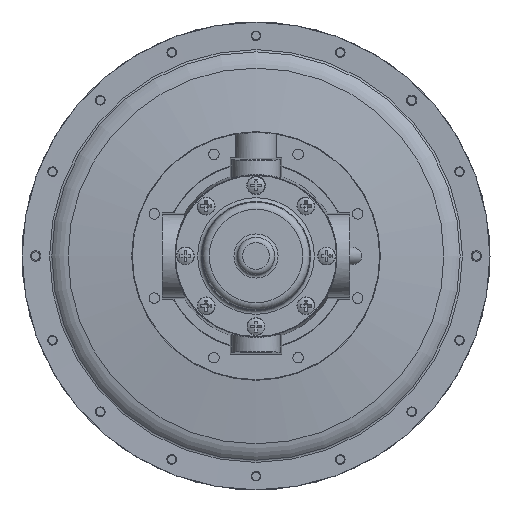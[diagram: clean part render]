
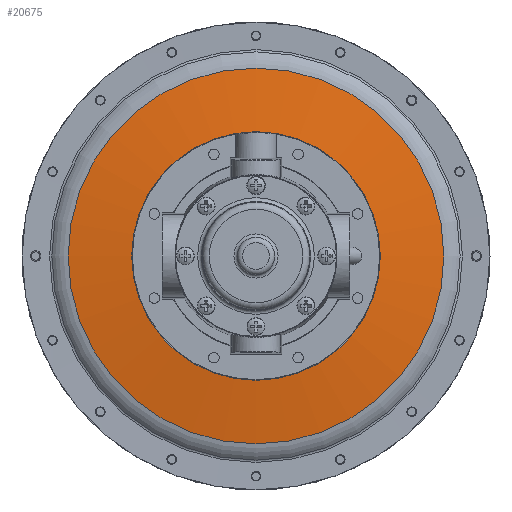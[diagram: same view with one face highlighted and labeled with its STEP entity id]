
A CAD part, front view. The second image highlights one B-rep face of the part: STEP entity #20675.
In plain terms, the highlighted conical face has half-angle 82.543 degrees and reference radius 57.357 mm.
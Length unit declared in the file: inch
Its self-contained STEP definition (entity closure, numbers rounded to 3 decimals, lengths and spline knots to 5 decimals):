
#1455=CIRCLE('',#22267,3.41224);
#1456=CIRCLE('',#22268,3.41224);
#1458=CIRCLE('',#22271,2.25815);
#2692=LINE('',#40483,#4585);
#4585=VECTOR('',#25461,2.25815);
#6453=FACE_OUTER_BOUND('',#7636,.T.);
#7636=EDGE_LOOP('',(#16365,#16366,#16367,#16368,#16369));
#9640=VERTEX_POINT('',#40476);
#9641=VERTEX_POINT('',#40477);
#9642=VERTEX_POINT('',#40482);
#12360=EDGE_CURVE('',#9640,#9641,#1455,.T.);
#12361=EDGE_CURVE('',#9641,#9640,#1456,.T.);
#12363=EDGE_CURVE('',#9640,#9642,#2692,.T.);
#12364=EDGE_CURVE('',#9642,#9642,#1458,.T.);
#16365=ORIENTED_EDGE('',*,*,#12360,.T.);
#16366=ORIENTED_EDGE('',*,*,#12361,.T.);
#16367=ORIENTED_EDGE('',*,*,#12363,.T.);
#16368=ORIENTED_EDGE('',*,*,#12364,.F.);
#16369=ORIENTED_EDGE('',*,*,#12363,.F.);
#20364=CONICAL_SURFACE('',#22270,2.25815,1.441);
#20675=ADVANCED_FACE('',(#6453),#20364,.T.);
#22267=AXIS2_PLACEMENT_3D('',#40478,#25453,#25454);
#22268=AXIS2_PLACEMENT_3D('',#40479,#25455,#25456);
#22270=AXIS2_PLACEMENT_3D('',#40481,#25459,#25460);
#22271=AXIS2_PLACEMENT_3D('',#40484,#25462,#25463);
#25453=DIRECTION('center_axis',(0.,-1.,0.));
#25454=DIRECTION('ref_axis',(1.,0.,0.));
#25455=DIRECTION('center_axis',(0.,-1.,0.));
#25456=DIRECTION('ref_axis',(1.,0.,0.));
#25459=DIRECTION('center_axis',(0.,1.,0.));
#25460=DIRECTION('ref_axis',(-1.,0.,0.));
#25461=DIRECTION('',(-0.992,-0.13,0.));
#25462=DIRECTION('center_axis',(0.,-1.,0.));
#25463=DIRECTION('ref_axis',(1.,0.,0.));
#40476=CARTESIAN_POINT('',(3.41224,0.13806,0.));
#40477=CARTESIAN_POINT('',(-3.41224,0.13806,0.));
#40478=CARTESIAN_POINT('Origin',(0.,0.13806,
0.));
#40479=CARTESIAN_POINT('Origin',(0.,0.13806,
0.));
#40481=CARTESIAN_POINT('Origin',(0.,-0.013,
0.));
#40482=CARTESIAN_POINT('',(2.25815,-0.013,0.));
#40483=CARTESIAN_POINT('',(2.25815,-0.013,0.));
#40484=CARTESIAN_POINT('Origin',(0.,-0.013,
0.));
